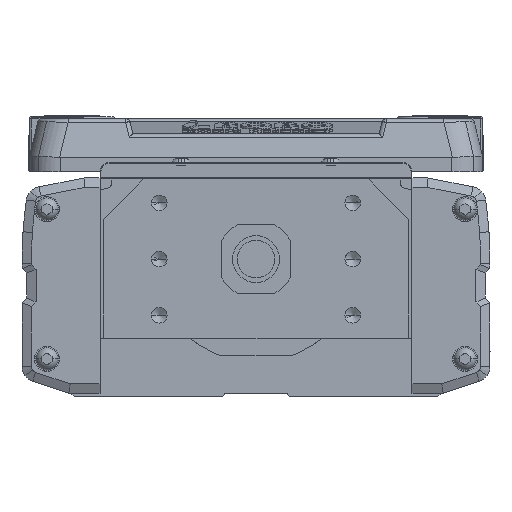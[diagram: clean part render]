
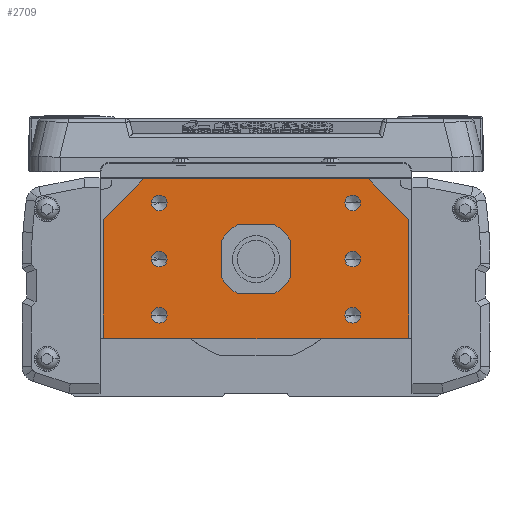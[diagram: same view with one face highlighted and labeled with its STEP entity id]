
A CAD part, left-side view. The second image highlights one B-rep face of the part: STEP entity #2709.
In plain terms, the highlighted planar face has unit normal (-1, 0, 0).
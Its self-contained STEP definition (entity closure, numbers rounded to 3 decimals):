
#2709=ADVANCED_FACE('',(#6874,#6875,#6876,#6877,#6878,#6879,#6880,#6881),#6882,.F.);
#6874=FACE_OUTER_BOUND('',#13233,.T.);
#6875=FACE_BOUND('',#13234,.T.);
#6876=FACE_BOUND('',#13235,.T.);
#6877=FACE_BOUND('',#13236,.T.);
#6878=FACE_BOUND('',#13237,.T.);
#6879=FACE_BOUND('',#13238,.T.);
#6880=FACE_BOUND('',#13239,.T.);
#6881=FACE_BOUND('',#13240,.T.);
#6882=PLANE('',#13241);
#13233=EDGE_LOOP('',(#21463,#21464,#21465,#21466,#21467,#21468,#21469,#21470));
#13234=EDGE_LOOP('',(#21471,#21472));
#13235=EDGE_LOOP('',(#21473,#21474));
#13236=EDGE_LOOP('',(#21475,#21476));
#13237=EDGE_LOOP('',(#21477,#21478));
#13238=EDGE_LOOP('',(#21479,#21480));
#13239=EDGE_LOOP('',(#21481,#21482));
#13240=EDGE_LOOP('',(#21483,#21484));
#13241=AXIS2_PLACEMENT_3D('',#21485,#21486,#21487);
#21463=ORIENTED_EDGE('',*,*,#37320,.F.);
#21464=ORIENTED_EDGE('',*,*,#37321,.F.);
#21465=ORIENTED_EDGE('',*,*,#37322,.F.);
#21466=ORIENTED_EDGE('',*,*,#37323,.F.);
#21467=ORIENTED_EDGE('',*,*,#37324,.F.);
#21468=ORIENTED_EDGE('',*,*,#37325,.F.);
#21469=ORIENTED_EDGE('',*,*,#37326,.F.);
#21470=ORIENTED_EDGE('',*,*,#37327,.F.);
#21471=ORIENTED_EDGE('',*,*,#37328,.T.);
#21472=ORIENTED_EDGE('',*,*,#36724,.T.);
#21473=ORIENTED_EDGE('',*,*,#37329,.T.);
#21474=ORIENTED_EDGE('',*,*,#37330,.T.);
#21475=ORIENTED_EDGE('',*,*,#37331,.T.);
#21476=ORIENTED_EDGE('',*,*,#37332,.T.);
#21477=ORIENTED_EDGE('',*,*,#37333,.T.);
#21478=ORIENTED_EDGE('',*,*,#37334,.T.);
#21479=ORIENTED_EDGE('',*,*,#36349,.T.);
#21480=ORIENTED_EDGE('',*,*,#37335,.T.);
#21481=ORIENTED_EDGE('',*,*,#36031,.T.);
#21482=ORIENTED_EDGE('',*,*,#37336,.T.);
#21483=ORIENTED_EDGE('',*,*,#37337,.F.);
#21484=ORIENTED_EDGE('',*,*,#36398,.F.);
#21485=CARTESIAN_POINT('',(0.,0.275,-2.548));
#21486=DIRECTION('',(1.0,0.,0.));
#21487=DIRECTION('',(0.,1.0,0.));
#36031=EDGE_CURVE('',#42619,#42623,#42625,.T.);
#36349=EDGE_CURVE('',#43180,#43183,#43185,.T.);
#36398=EDGE_CURVE('',#43269,#43272,#43273,.F.);
#36724=EDGE_CURVE('',#43830,#43828,#43831,.T.);
#37320=EDGE_CURVE('',#44832,#44833,#44834,.T.);
#37321=EDGE_CURVE('',#44835,#44832,#44836,.T.);
#37322=EDGE_CURVE('',#44837,#44835,#44838,.T.);
#37323=EDGE_CURVE('',#44839,#44837,#44840,.T.);
#37324=EDGE_CURVE('',#44841,#44839,#44842,.T.);
#37325=EDGE_CURVE('',#44843,#44841,#44844,.T.);
#37326=EDGE_CURVE('',#44845,#44843,#44846,.T.);
#37327=EDGE_CURVE('',#44833,#44845,#44847,.T.);
#37328=EDGE_CURVE('',#43828,#43830,#44848,.T.);
#37329=EDGE_CURVE('',#44849,#44850,#44851,.T.);
#37330=EDGE_CURVE('',#44850,#44849,#44852,.T.);
#37331=EDGE_CURVE('',#44853,#44854,#44855,.T.);
#37332=EDGE_CURVE('',#44854,#44853,#44856,.T.);
#37333=EDGE_CURVE('',#44857,#44858,#44859,.T.);
#37334=EDGE_CURVE('',#44858,#44857,#44860,.T.);
#37335=EDGE_CURVE('',#43183,#43180,#44861,.T.);
#37336=EDGE_CURVE('',#42623,#42619,#44862,.T.);
#37337=EDGE_CURVE('',#43272,#43269,#44863,.F.);
#42619=VERTEX_POINT('',#52285);
#42623=VERTEX_POINT('',#52290);
#42625=CIRCLE('',#52293,2.5);
#43180=VERTEX_POINT('',#53043);
#43183=VERTEX_POINT('',#53047);
#43185=CIRCLE('',#53050,2.5);
#43269=VERTEX_POINT('',#53154);
#43272=VERTEX_POINT('',#53158);
#43273=CIRCLE('',#53159,7.5);
#43828=VERTEX_POINT('',#53866);
#43830=VERTEX_POINT('',#53869);
#43831=CIRCLE('',#53870,2.5);
#44832=VERTEX_POINT('',#55406);
#44833=VERTEX_POINT('',#55407);
#44834=LINE('',#55408,#55409);
#44835=VERTEX_POINT('',#55410);
#44836=LINE('',#55411,#55412);
#44837=VERTEX_POINT('',#55413);
#44838=LINE('',#55414,#55415);
#44839=VERTEX_POINT('',#55416);
#44840=LINE('',#55417,#55418);
#44841=VERTEX_POINT('',#55419);
#44842=LINE('',#55420,#55421);
#44843=VERTEX_POINT('',#55422);
#44844=LINE('',#55423,#55424);
#44845=VERTEX_POINT('',#55425);
#44846=LINE('',#55426,#55427);
#44847=LINE('',#55428,#55429);
#44848=CIRCLE('',#55430,2.5);
#44849=VERTEX_POINT('',#55431);
#44850=VERTEX_POINT('',#55432);
#44851=CIRCLE('',#55433,2.5);
#44852=CIRCLE('',#55434,2.5);
#44853=VERTEX_POINT('',#55435);
#44854=VERTEX_POINT('',#55436);
#44855=CIRCLE('',#55437,2.5);
#44856=CIRCLE('',#55438,2.5);
#44857=VERTEX_POINT('',#55439);
#44858=VERTEX_POINT('',#55440);
#44859=CIRCLE('',#55441,2.5);
#44860=CIRCLE('',#55442,2.5);
#44861=CIRCLE('',#55443,2.5);
#44862=CIRCLE('',#55444,2.5);
#44863=CIRCLE('',#55445,7.5);
#52285=CARTESIAN_POINT('',(0.,-33.5,0.));
#52290=CARTESIAN_POINT('',(0.,-28.5,0.));
#52293=AXIS2_PLACEMENT_3D('',#65675,#65676,#65677);
#53043=CARTESIAN_POINT('',(0.,33.5,0.));
#53047=CARTESIAN_POINT('',(0.,28.5,0.));
#53050=AXIS2_PLACEMENT_3D('',#66115,#66116,#66117);
#53154=CARTESIAN_POINT('',(0.,-7.5,0.));
#53158=CARTESIAN_POINT('',(0.,7.5,0.));
#53159=AXIS2_PLACEMENT_3D('',#66196,#66197,#66198);
#53866=CARTESIAN_POINT('',(0.,33.5,-18.));
#53869=CARTESIAN_POINT('',(0.,28.5,-18.));
#53870=AXIS2_PLACEMENT_3D('',#66703,#66704,#66705);
#55406=CARTESIAN_POINT('',(0.,49.,12.7));
#55407=CARTESIAN_POINT('',(0.,36.,25.7));
#55408=CARTESIAN_POINT('',(0.,37.381,24.319));
#55409=VECTOR('',#67540,10.);
#55410=CARTESIAN_POINT('',(0.,49.,-25.));
#55411=CARTESIAN_POINT('',(0.,49.,-25.));
#55412=VECTOR('',#67541,10.0);
#55413=CARTESIAN_POINT('',(0.,48.5,-25.5));
#55414=CARTESIAN_POINT('',(0.,48.5,-25.5));
#55415=VECTOR('',#67542,10.0);
#55416=CARTESIAN_POINT('',(0.,-48.5,-25.5));
#55417=CARTESIAN_POINT('',(0.,0.,-25.5));
#55418=VECTOR('',#67543,10.0);
#55419=CARTESIAN_POINT('',(0.,-49.,-25.));
#55420=CARTESIAN_POINT('',(0.,-49.,-25.));
#55421=VECTOR('',#67544,10.0);
#55422=CARTESIAN_POINT('',(0.,-49.,12.7));
#55423=CARTESIAN_POINT('',(0.,-49.,-14.));
#55424=VECTOR('',#67545,10.0);
#55425=CARTESIAN_POINT('',(0.,-36.,25.7));
#55426=CARTESIAN_POINT('',(0.,-37.243,24.457));
#55427=VECTOR('',#67546,10.0);
#55428=CARTESIAN_POINT('',(0.,34.5,25.7));
#55429=VECTOR('',#67547,10.0);
#55430=AXIS2_PLACEMENT_3D('',#67548,#67549,#67550);
#55431=CARTESIAN_POINT('',(0.,-33.5,-18.));
#55432=CARTESIAN_POINT('',(0.,-28.5,-18.));
#55433=AXIS2_PLACEMENT_3D('',#67551,#67552,#67553);
#55434=AXIS2_PLACEMENT_3D('',#67554,#67555,#67556);
#55435=CARTESIAN_POINT('',(0.,33.5,18.));
#55436=CARTESIAN_POINT('',(0.,28.5,18.));
#55437=AXIS2_PLACEMENT_3D('',#67557,#67558,#67559);
#55438=AXIS2_PLACEMENT_3D('',#67560,#67561,#67562);
#55439=CARTESIAN_POINT('',(0.,-33.5,18.));
#55440=CARTESIAN_POINT('',(0.,-28.5,18.));
#55441=AXIS2_PLACEMENT_3D('',#67563,#67564,#67565);
#55442=AXIS2_PLACEMENT_3D('',#67566,#67567,#67568);
#55443=AXIS2_PLACEMENT_3D('',#67569,#67570,#67571);
#55444=AXIS2_PLACEMENT_3D('',#67572,#67573,#67574);
#55445=AXIS2_PLACEMENT_3D('',#67575,#67576,#67577);
#65675=CARTESIAN_POINT('',(0.,-31.,0.));
#65676=DIRECTION('',(1.0,0.,0.));
#65677=DIRECTION('',(0.,-1.0,0.));
#66115=CARTESIAN_POINT('',(0.,31.,0.));
#66116=DIRECTION('',(1.0,0.,0.));
#66117=DIRECTION('',(0.,1.0,0.));
#66196=CARTESIAN_POINT('',(0.,0.,0.));
#66197=DIRECTION('',(1.0,0.,0.));
#66198=DIRECTION('',(0.,-1.0,0.));
#66703=CARTESIAN_POINT('',(0.,31.,-18.));
#66704=DIRECTION('',(1.0,0.,0.));
#66705=DIRECTION('',(0.,1.0,0.));
#67540=DIRECTION('',(0.,-0.707,0.707));
#67541=DIRECTION('',(0.,0.,1.0));
#67542=DIRECTION('',(0.,0.707,0.707));
#67543=DIRECTION('',(0.,1.0,0.));
#67544=DIRECTION('',(0.,0.707,-0.707));
#67545=DIRECTION('',(0.,0.,-1.0));
#67546=DIRECTION('',(0.,-0.707,-0.707));
#67547=DIRECTION('',(0.,-1.0,0.));
#67548=CARTESIAN_POINT('',(0.,31.,-18.));
#67549=DIRECTION('',(1.0,0.,0.));
#67550=DIRECTION('',(0.,1.0,0.));
#67551=CARTESIAN_POINT('',(0.,-31.,-18.));
#67552=DIRECTION('',(1.0,0.,0.));
#67553=DIRECTION('',(0.,-1.0,0.));
#67554=CARTESIAN_POINT('',(0.,-31.,-18.));
#67555=DIRECTION('',(1.0,0.,0.));
#67556=DIRECTION('',(0.,-1.0,0.));
#67557=CARTESIAN_POINT('',(0.,31.,18.));
#67558=DIRECTION('',(1.0,0.,0.));
#67559=DIRECTION('',(0.,1.0,0.));
#67560=CARTESIAN_POINT('',(0.,31.,18.));
#67561=DIRECTION('',(1.0,0.,0.));
#67562=DIRECTION('',(0.,1.0,0.));
#67563=CARTESIAN_POINT('',(0.,-31.,18.));
#67564=DIRECTION('',(1.0,0.,0.));
#67565=DIRECTION('',(0.,-1.0,0.));
#67566=CARTESIAN_POINT('',(0.,-31.,18.));
#67567=DIRECTION('',(1.0,0.,0.));
#67568=DIRECTION('',(0.,-1.0,0.));
#67569=CARTESIAN_POINT('',(0.,31.,0.));
#67570=DIRECTION('',(1.0,0.,0.));
#67571=DIRECTION('',(0.,1.0,0.));
#67572=CARTESIAN_POINT('',(0.,-31.,0.));
#67573=DIRECTION('',(1.0,0.,0.));
#67574=DIRECTION('',(0.,-1.0,0.));
#67575=CARTESIAN_POINT('',(0.,0.,0.));
#67576=DIRECTION('',(1.0,0.,0.));
#67577=DIRECTION('',(0.,-1.0,0.));
